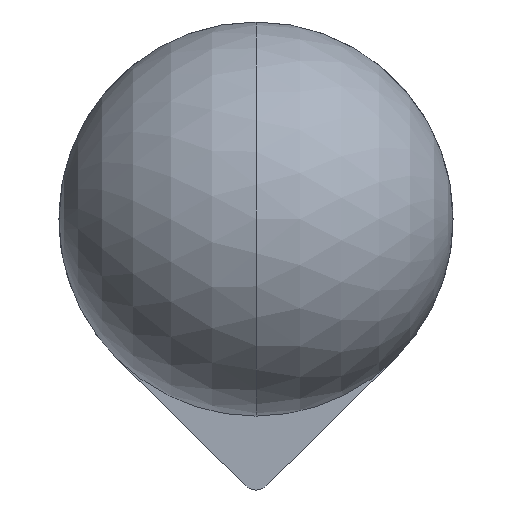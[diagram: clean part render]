
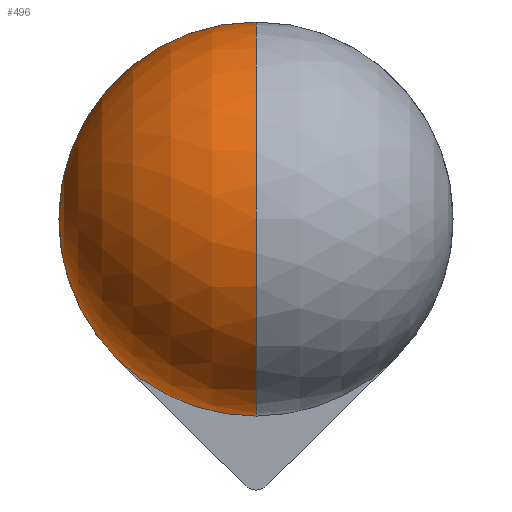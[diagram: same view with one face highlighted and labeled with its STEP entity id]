
A CAD part, front view. The second image highlights one B-rep face of the part: STEP entity #496.
In plain terms, the highlighted spherical face has radius 4 mm.
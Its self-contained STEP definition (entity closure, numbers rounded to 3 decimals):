
#35 = SPHERICAL_SURFACE ( 'NONE', #285, 4. ) ;
#51 = CIRCLE ( 'NONE', #352, 4. ) ;
#59 = DIRECTION ( 'NONE',  ( -1., 0., 0. ) ) ;
#208 = DIRECTION ( 'NONE',  ( 0., 1., 0. ) ) ;
#212 = EDGE_CURVE ( 'NONE', #828, #232, #326, .T. ) ;
#232 = VERTEX_POINT ( 'NONE', #444 ) ;
#285 = AXIS2_PLACEMENT_3D ( 'NONE', #1147, #59, #693 ) ;
#296 = EDGE_CURVE ( 'NONE', #828, #415, #51, .T. ) ;
#326 = CIRCLE ( 'NONE', #853, 4. ) ;
#351 = VERTEX_POINT ( 'NONE', #952 ) ;
#352 = AXIS2_PLACEMENT_3D ( 'NONE', #1084, #1075, #880 ) ;
#405 = CARTESIAN_POINT ( 'NONE',  ( 0., 15., 0. ) ) ;
#415 = VERTEX_POINT ( 'NONE', #1139 ) ;
#428 = ORIENTED_EDGE ( 'NONE', *, *, #296, .T. ) ;
#444 = CARTESIAN_POINT ( 'NONE',  ( 0., 19., 0. ) ) ;
#465 = ORIENTED_EDGE ( 'NONE', *, *, #934, .T. ) ;
#496 = ADVANCED_FACE ( 'NONE', ( #1021 ), #35, .T. ) ;
#537 = DIRECTION ( 'NONE',  ( -1., 0., 0. ) ) ;
#554 = CARTESIAN_POINT ( 'NONE',  ( 0., 15., 4. ) ) ;
#558 = CARTESIAN_POINT ( 'NONE',  ( 0., 15., 0. ) ) ;
#578 = ORIENTED_EDGE ( 'NONE', *, *, #212, .F. ) ;
#634 = CARTESIAN_POINT ( 'NONE',  ( 0., 15., 0. ) ) ;
#635 = EDGE_CURVE ( 'NONE', #415, #351, #1005, .T. ) ;
#654 = DIRECTION ( 'NONE',  ( 0., 0., 1. ) ) ;
#693 = DIRECTION ( 'NONE',  ( 0., 0., -1. ) ) ;
#828 = VERTEX_POINT ( 'NONE', #554 ) ;
#852 = EDGE_LOOP ( 'NONE', ( #578, #428, #1159, #465 ) ) ;
#853 = AXIS2_PLACEMENT_3D ( 'NONE', #634, #537, #1071 ) ;
#856 = AXIS2_PLACEMENT_3D ( 'NONE', #405, #1033, #1131 ) ;
#880 = DIRECTION ( 'NONE',  ( 0., 0., 1. ) ) ;
#934 = EDGE_CURVE ( 'NONE', #351, #232, #1019, .T. ) ;
#952 = CARTESIAN_POINT ( 'NONE',  ( 0., 15., -4. ) ) ;
#1005 = CIRCLE ( 'NONE', #1049, 4. ) ;
#1019 = CIRCLE ( 'NONE', #856, 4. ) ;
#1021 = FACE_OUTER_BOUND ( 'NONE', #852, .T. ) ;
#1033 = DIRECTION ( 'NONE',  ( 1., 0., 0. ) ) ;
#1049 = AXIS2_PLACEMENT_3D ( 'NONE', #558, #208, #654 ) ;
#1071 = DIRECTION ( 'NONE',  ( 0., 0., 1. ) ) ;
#1075 = DIRECTION ( 'NONE',  ( 0., 1., 0. ) ) ;
#1084 = CARTESIAN_POINT ( 'NONE',  ( 0., 15., 0. ) ) ;
#1131 = DIRECTION ( 'NONE',  ( 0., 0., -1. ) ) ;
#1139 = CARTESIAN_POINT ( 'NONE',  ( 2.811, 15., -2.846 ) ) ;
#1147 = CARTESIAN_POINT ( 'NONE',  ( 0., 15., 0. ) ) ;
#1159 = ORIENTED_EDGE ( 'NONE', *, *, #635, .T. ) ;
